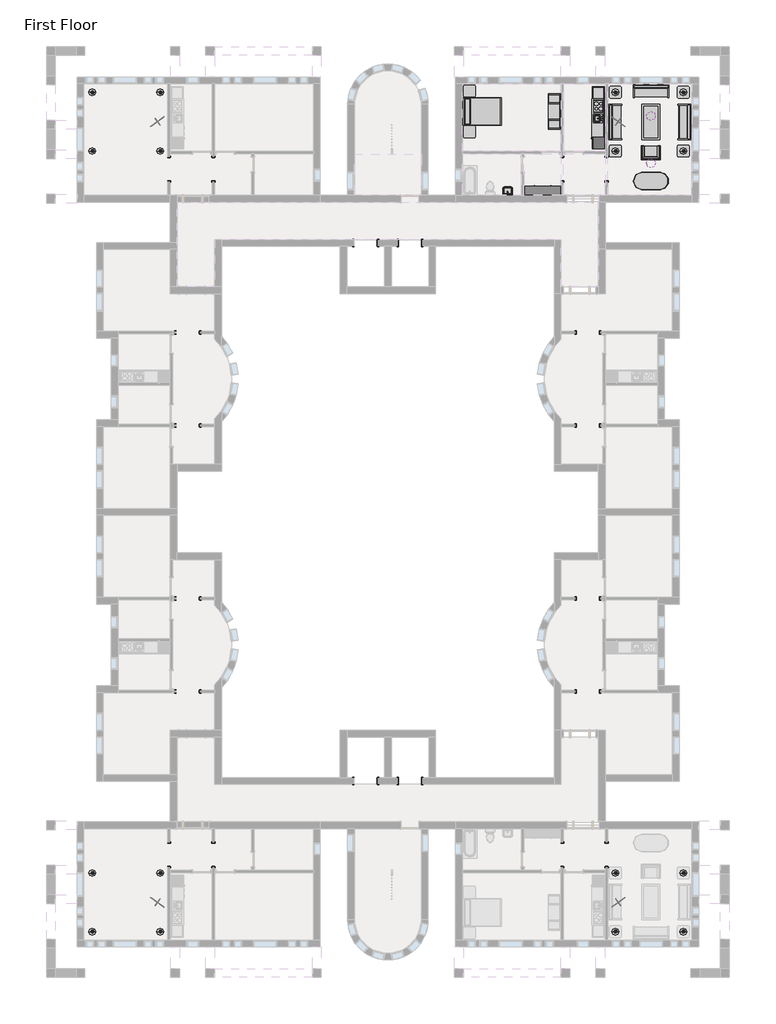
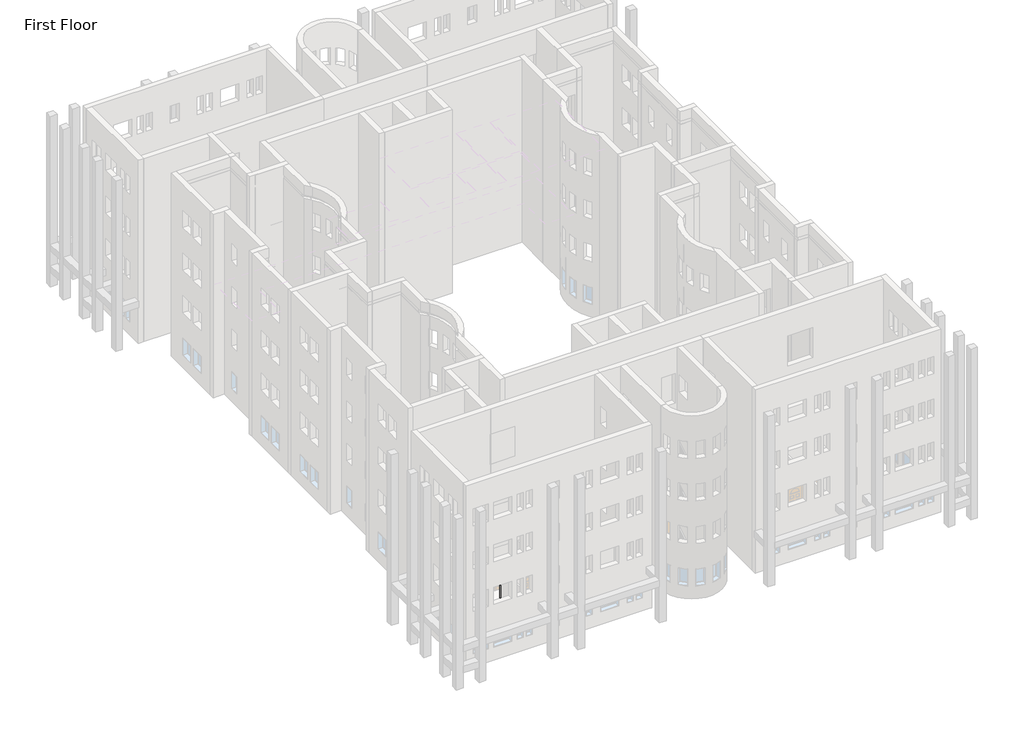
# One storey, part 23 of 23: 25 proxies, 18 light fixtures, 15 furniture elements, 1 flow terminal.
"""IFC4 building model written with IfcOpenShell, lengths in millimetres."""

from ifc_helpers import new_model, si_unit, origin, place, context, project, spatial, transform, mapped, element, save
from components import proxy_64a468c4, proxy_f44482cc, proxy_c3589814, proxy_d58c73d0, proxy_1659ed5c, rpc_female_69e001fa, rpc_female_db180e41, flow_terminal_0aeb31e3, furniture_096e7f55, chair_corbu_chair_corbu_2764bdef, furniture_7c473f12, furniture_ddc78764, furniture_4ef38d96, furniture_cd93a443, furniture_2c34a4f9, furniture_3a588284, furniture_1befe2a2, pendant_light_disk_100w_120v_c68bffb6, table_lamp_standard_60w_120v_6e8cd8b1, table_lamp_standard_60w_120v_b33ea945

model = new_model("IFC4")

# Units and contexts
model_context = context("Model", 3, world=origin())
ifc_project = project(units=[si_unit("LENGTHUNIT", "METRE", prefix="MILLI")], contexts=[model_context])

# Site, building, storey
site = spatial("IfcSite", under=ifc_project)
building = spatial("IfcBuilding", under=site)
storey = spatial("IfcBuildingStorey", under=building, Name="First Floor", Elevation=0.0)

# Proxies
placement = place(None, origin())
proxy_shape = proxy_64a468c4(model_context)
element("IfcBuildingElementProxy", 1, Name="Kitchenette - Medium : 8'6\"", ObjectType="Kitchenette - Medium : 8'6\"", at=placement, inside=storey, context=model_context, shape_type="MappedRepresentation", body=[
    mapped(proxy_shape, transform((-3887.7589563, 8837.7956433, 0.0), x_axis=(0.0, -1.0, 0.0), y_axis=(1.0, 0.0, 0.0), z_axis=(0.0, 0.0, 1.0))),
])
proxy_2_shape = proxy_f44482cc(model_context)
element("IfcBuildingElementProxy", 2, Name="Opening-Cased : 48\" x 84\"", ObjectType="Opening-Cased : 48\" x 84\"", at=placement, inside=storey, context=model_context, shape_type="MappedRepresentation", body=[
    mapped(proxy_2_shape, transform((-3773.4589563, 5882.4203434, 0.0), x_axis=(0.0, 1.0, 0.0), y_axis=(-1.0, 0.0, 0.0), z_axis=(0.0, 0.0, 1.0))),
])
element("IfcBuildingElementProxy", 3, Name="Opening-Cased : 48\" x 84\"", ObjectType="Opening-Cased : 48\" x 84\"", at=placement, inside=storey, context=model_context, shape_type="MappedRepresentation", body=[
    mapped(proxy_2_shape, transform((-6059.4589563, 5866.04303, 0.0), x_axis=(0.0, -1.0, 0.0), y_axis=(1.0, 0.0, 0.0), z_axis=(0.0, 0.0, 1.0))),
])
element("IfcBuildingElementProxy", 4, Name="Opening-Cased : 48\" x 84\"", ObjectType="Opening-Cased : 48\" x 84\"", at=placement, inside=storey, context=model_context, shape_type="MappedRepresentation", body=[
    mapped(proxy_2_shape, transform((-25377.4952996, -7344.8808133, 0.0), x_axis=(1.0, 0.0, 0.0), y_axis=(0.0, 1.0, 0.0), z_axis=(0.0, 0.0, 1.0))),
])
element("IfcBuildingElementProxy", 5, Name="Opening-Cased : 48\" x 84\"", ObjectType="Opening-Cased : 48\" x 84\"", at=placement, inside=storey, context=model_context, shape_type="MappedRepresentation", body=[
    mapped(proxy_2_shape, transform((-25393.872613, -2547.4558133, 0.0), x_axis=(-1.0, 0.0, 0.0), y_axis=(0.0, -1.0, 0.0), z_axis=(0.0, 0.0, 1.0))),
])
element("IfcBuildingElementProxy", 6, Name="Opening-Cased : 48\" x 84\"", ObjectType="Opening-Cased : 48\" x 84\"", at=placement, inside=storey, context=model_context, shape_type="MappedRepresentation", body=[
    mapped(proxy_2_shape, transform((-4746.847613, -16263.4558133, 0.0), x_axis=(-1.0, 0.0, 0.0), y_axis=(0.0, -1.0, 0.0), z_axis=(0.0, 0.0, 1.0))),
])
element("IfcBuildingElementProxy", 7, Name="Opening-Cased : 48\" x 84\"", ObjectType="Opening-Cased : 48\" x 84\"", at=placement, inside=storey, context=model_context, shape_type="MappedRepresentation", body=[
    mapped(proxy_2_shape, transform((-4730.4702996, -21060.8808133, 0.0), x_axis=(1.0, 0.0, 0.0), y_axis=(0.0, 1.0, 0.0), z_axis=(0.0, 0.0, 1.0))),
])
element("IfcBuildingElementProxy", 8, Name="Opening-Cased : 48\" x 84\"", ObjectType="Opening-Cased : 48\" x 84\"", at=placement, inside=storey, context=model_context, shape_type="MappedRepresentation", body=[
    mapped(proxy_2_shape, transform((-26350.8839563, -29490.75697, 0.0), x_axis=(0.0, -1.0, 0.0), y_axis=(1.0, 0.0, 0.0), z_axis=(0.0, 0.0, 1.0))),
])
element("IfcBuildingElementProxy", 9, Name="Opening-Cased : 48\" x 84\"", ObjectType="Opening-Cased : 48\" x 84\"", at=placement, inside=storey, context=model_context, shape_type="MappedRepresentation", body=[
    mapped(proxy_2_shape, transform((-24064.8839563, -29474.3796566, 0.0), x_axis=(0.0, 1.0, 0.0), y_axis=(-1.0, 0.0, 0.0), z_axis=(0.0, 0.0, 1.0))),
])
proxy_3_shape = proxy_c3589814(model_context)
element("IfcBuildingElementProxy", 10, Name="Opening-Cased : 48\" x 84\"", ObjectType="Opening-Cased : 48\" x 84\"", at=placement, inside=storey, context=model_context, shape_type="MappedRepresentation", body=[
    mapped(proxy_3_shape, transform((-16213.360113, 2064.2316867, 0.0), x_axis=(-1.0, 0.0, 0.0), y_axis=(0.0, -1.0, 0.0), z_axis=(0.0, 0.0, 1.0))),
])
element("IfcBuildingElementProxy", 11, Name="Opening-Cased : 48\" x 84\"", ObjectType="Opening-Cased : 48\" x 84\"", at=placement, inside=storey, context=model_context, shape_type="MappedRepresentation", body=[
    mapped(proxy_3_shape, transform((-13927.360113, 2064.2316867, 0.0), x_axis=(-1.0, 0.0, 0.0), y_axis=(0.0, -1.0, 0.0), z_axis=(0.0, 0.0, 1.0))),
])
proxy_4_shape = proxy_d58c73d0(model_context)
element("IfcBuildingElementProxy", 12, Name="Opening-Cased : 48\" x 84\"", ObjectType="Opening-Cased : 48\" x 84\"", at=placement, inside=storey, context=model_context, shape_type="MappedRepresentation", body=[
    mapped(proxy_4_shape, transform((-4746.847613, -7344.8808133, 0.0), x_axis=(-1.0, 0.0, 0.0), y_axis=(0.0, -1.0, 0.0), z_axis=(0.0, 0.0, 1.0))),
])
element("IfcBuildingElementProxy", 13, Name="Opening-Cased : 48\" x 84\"", ObjectType="Opening-Cased : 48\" x 84\"", at=placement, inside=storey, context=model_context, shape_type="MappedRepresentation", body=[
    mapped(proxy_4_shape, transform((-4730.4702996, -2547.4558133, 0.0), x_axis=(1.0, 0.0, 0.0), y_axis=(0.0, 1.0, 0.0), z_axis=(0.0, 0.0, 1.0))),
])
element("IfcBuildingElementProxy", 14, Name="Opening-Cased : 48\" x 84\"", ObjectType="Opening-Cased : 48\" x 84\"", at=placement, inside=storey, context=model_context, shape_type="MappedRepresentation", body=[
    mapped(proxy_4_shape, transform((-26350.8839563, 5882.4203434, 0.0), x_axis=(0.0, 1.0, 0.0), y_axis=(-1.0, 0.0, 0.0), z_axis=(0.0, 0.0, 1.0))),
])
element("IfcBuildingElementProxy", 15, Name="Opening-Cased : 48\" x 84\"", ObjectType="Opening-Cased : 48\" x 84\"", at=placement, inside=storey, context=model_context, shape_type="MappedRepresentation", body=[
    mapped(proxy_4_shape, transform((-24064.8839563, 5866.04303, 0.0), x_axis=(0.0, -1.0, 0.0), y_axis=(1.0, 0.0, 0.0), z_axis=(0.0, 0.0, 1.0))),
])
element("IfcBuildingElementProxy", 16, Name="Opening-Cased : 48\" x 84\"", ObjectType="Opening-Cased : 48\" x 84\"", at=placement, inside=storey, context=model_context, shape_type="MappedRepresentation", body=[
    mapped(proxy_4_shape, transform((-3773.4589563, -29490.75697, 0.0), x_axis=(0.0, -1.0, 0.0), y_axis=(1.0, 0.0, 0.0), z_axis=(0.0, 0.0, 1.0))),
])
element("IfcBuildingElementProxy", 17, Name="Opening-Cased : 48\" x 84\"", ObjectType="Opening-Cased : 48\" x 84\"", at=placement, inside=storey, context=model_context, shape_type="MappedRepresentation", body=[
    mapped(proxy_4_shape, transform((-6059.4589563, -29474.3796566, 0.0), x_axis=(0.0, 1.0, 0.0), y_axis=(-1.0, 0.0, 0.0), z_axis=(0.0, 0.0, 1.0))),
])
element("IfcBuildingElementProxy", 18, Name="Opening-Cased : 48\" x 84\"", ObjectType="Opening-Cased : 48\" x 84\"", at=placement, inside=storey, context=model_context, shape_type="MappedRepresentation", body=[
    mapped(proxy_4_shape, transform((-25377.4952996, -16263.4558133, 0.0), x_axis=(1.0, 0.0, 0.0), y_axis=(0.0, 1.0, 0.0), z_axis=(0.0, 0.0, 1.0))),
])
element("IfcBuildingElementProxy", 19, Name="Opening-Cased : 48\" x 84\"", ObjectType="Opening-Cased : 48\" x 84\"", at=placement, inside=storey, context=model_context, shape_type="MappedRepresentation", body=[
    mapped(proxy_4_shape, transform((-25393.872613, -21060.8808133, 0.0), x_axis=(-1.0, 0.0, 0.0), y_axis=(0.0, -1.0, 0.0), z_axis=(0.0, 0.0, 1.0))),
])
proxy_5_shape = proxy_1659ed5c(model_context)
element("IfcBuildingElementProxy", 20, Name="Opening-Cased : 48\" x 84\"", ObjectType="Opening-Cased : 48\" x 84\"", at=placement, inside=storey, context=model_context, shape_type="MappedRepresentation", body=[
    mapped(proxy_5_shape, transform((-16213.360113, -25672.5683133, 0.0), x_axis=(-1.0, 0.0, 0.0), y_axis=(0.0, -1.0, 0.0), z_axis=(0.0, 0.0, 1.0))),
])
element("IfcBuildingElementProxy", 21, Name="Opening-Cased : 48\" x 84\"", ObjectType="Opening-Cased : 48\" x 84\"", at=placement, inside=storey, context=model_context, shape_type="MappedRepresentation", body=[
    mapped(proxy_5_shape, transform((-13927.360113, -25672.5683133, 0.0), x_axis=(-1.0, 0.0, 0.0), y_axis=(0.0, -1.0, 0.0), z_axis=(0.0, 0.0, 1.0))),
])
rpc_female_shape = rpc_female_69e001fa(model_context)
element("IfcBuildingElementProxy", 22, Name="RPC Female : Cynthia", ObjectType="RPC Female : Cynthia", at=placement, inside=storey, context=model_context, shape_type="MappedRepresentation", body=[
    mapped(rpc_female_shape, transform((-3048.0, 8229.6, 0.0), x_axis=(0.5877852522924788, 0.8090169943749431, 0.0), y_axis=(-0.8090169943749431, 0.5877852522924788, 0.0), z_axis=(0.0, 0.0, 1.0))),
])
element("IfcBuildingElementProxy", 23, Name="RPC Female : Cynthia", ObjectType="RPC Female : Cynthia", at=placement, inside=storey, context=model_context, shape_type="MappedRepresentation", body=[
    mapped(rpc_female_shape, transform((-27076.3429126, -31837.9366266, 0.0), x_axis=(-0.5877852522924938, -0.8090169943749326, 0.0), y_axis=(0.8090169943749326, -0.5877852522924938, 0.0), z_axis=(0.0, 0.0, 1.0))),
])
rpc_female_2_shape = rpc_female_db180e41(model_context)
element("IfcBuildingElementProxy", 24, Name="RPC Female : Cynthia", ObjectType="RPC Female : Cynthia", at=placement, inside=storey, context=model_context, shape_type="MappedRepresentation", body=[
    mapped(rpc_female_2_shape, transform((-27076.3429126, 8229.6, 0.0), x_axis=(-0.5877852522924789, 0.8090169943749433, 0.0), y_axis=(-0.8090169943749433, -0.5877852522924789, 0.0), z_axis=(0.0, 0.0, 1.0))),
])
element("IfcBuildingElementProxy", 25, Name="RPC Female : Cynthia", ObjectType="RPC Female : Cynthia", at=placement, inside=storey, context=model_context, shape_type="MappedRepresentation", body=[
    mapped(rpc_female_2_shape, transform((-3048.0, -31837.9366266, 0.0), x_axis=(0.5877852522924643, -0.8090169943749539, 0.0), y_axis=(0.8090169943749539, 0.5877852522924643, 0.0), z_axis=(0.0, 0.0, 1.0))),
])

# Flow terminal
flow_terminal_shape = flow_terminal_0aeb31e3(model_context)
element("IfcFlowTerminal", 26, ObjectType="Sink Vanity-Square : 24\" x 19\"", at=placement, inside=storey, context=model_context, shape_type="MappedRepresentation", body=[
    mapped(flow_terminal_shape, transform((-8864.7572157, 4706.5895878, 0.0), x_axis=(-1.0, 0.0, 0.0), y_axis=(0.0, -1.0, 0.0), z_axis=(0.0, 0.0, 1.0))),
])

# Furniture
furniture_shape = furniture_096e7f55(model_context)
element("IfcFurniture", 27, ObjectType="Bed-Shaker : Double 56\" x 78\"", at=placement, inside=storey, context=model_context, shape_type="MappedRepresentation", body=[
    mapped(furniture_shape, transform((-11183.1982802, 8871.8755561, 0.0), x_axis=(0.0, 1.0, 0.0), y_axis=(-1.0, 0.0, 0.0), z_axis=(0.0, 0.0, 1.0))),
])
chair_corbu_chair_corbu_shape = chair_corbu_chair_corbu_2764bdef(model_context)
element("IfcFurniture", 28, ObjectType="Chair-Corbu : Chair-Corbu", at=placement, inside=storey, context=model_context, shape_type="MappedRepresentation", body=[
    mapped(chair_corbu_chair_corbu_shape, transform((-914.0851858, 7193.4962359, 0.0), x_axis=(-1.0, 0.0, 0.0), y_axis=(0.0, -1.0, 0.0), z_axis=(0.0, 0.0, 1.0))),
])
furniture_2_shape = furniture_7c473f12(model_context)
element("IfcFurniture", 29, ObjectType="Dresser : 72\" x 60\" x 18\"", at=placement, inside=storey, context=model_context, shape_type="MappedRepresentation", body=[
    mapped(furniture_2_shape, transform((-7344.6522161, 4404.5812326, 0.0), x_axis=(-1.0, 0.0, 0.0), y_axis=(0.0, -1.0, 0.0), z_axis=(0.0, 0.0, 1.0))),
])
furniture_3_shape = furniture_ddc78764(model_context)
element("IfcFurniture", 30, ObjectType="Entertainment Center : 72\" x 72\" x 24\"", at=placement, inside=storey, context=model_context, shape_type="MappedRepresentation", body=[
    mapped(furniture_3_shape, transform((-6059.4589563, 8852.8255561, 0.0), x_axis=(0.0, -1.0, 0.0), y_axis=(1.0, 0.0, 0.0), z_axis=(0.0, 0.0, 1.0))),
])
furniture_4_shape = furniture_4ef38d96(model_context)
element("IfcFurniture", 31, ObjectType="Sofa : 72\"", at=placement, inside=storey, context=model_context, shape_type="MappedRepresentation", body=[
    mapped(furniture_4_shape, transform((-1557.8294481, 9741.2775883, 0.0), x_axis=(1.0, 0.0, 0.0), y_axis=(0.0, 1.0, 0.0), z_axis=(0.0, 0.0, 1.0))),
])
element("IfcFurniture", 32, ObjectType="Sofa : 72\"", at=placement, inside=storey, context=model_context, shape_type="MappedRepresentation", body=[
    mapped(furniture_4_shape, transform((93.5869453, 8383.0021785, 0.0), x_axis=(0.0, -1.0, 0.0), y_axis=(1.0, 0.0, 0.0), z_axis=(0.0, 0.0, 1.0))),
])
element("IfcFurniture", 33, ObjectType="Sofa : 72\"", at=placement, inside=storey, context=model_context, shape_type="MappedRepresentation", body=[
    mapped(furniture_4_shape, transform((-3170.104858, 8242.2611949, 0.0), x_axis=(0.0, 1.0, 0.0), y_axis=(-1.0, 0.0, 0.0), z_axis=(0.0, 0.0, 1.0))),
])
furniture_5_shape = furniture_cd93a443(model_context)
element("IfcFurniture", 34, ObjectType="Table-Coffee : 36\" x 72\" x 18\"", at=placement, inside=storey, context=model_context, shape_type="MappedRepresentation", body=[
    mapped(furniture_5_shape, transform((-1582.6700341, 8330.8974534, 0.0), x_axis=(0.0, -1.0, 0.0), y_axis=(1.0, 0.0, 0.0), z_axis=(0.0, 0.0, 1.0))),
])
furniture_6_shape = furniture_2c34a4f9(model_context)
element("IfcFurniture", 35, ObjectType="Table-Dining Oval : 36\" x 72\"", at=placement, inside=storey, context=model_context, shape_type="MappedRepresentation", body=[
    mapped(furniture_6_shape, transform((-1085.6392842, 5622.7300473, 0.0), x_axis=(1.0, 0.0, 0.0), y_axis=(0.0, 1.0, 0.0), z_axis=(0.0, 0.0, 1.0))),
])
furniture_7_shape = furniture_3a588284(model_context)
element("IfcFurniture", 36, ObjectType="Table-End : 24\" x 24\"", at=placement, inside=storey, context=model_context, shape_type="MappedRepresentation", body=[
    mapped(furniture_7_shape, transform((-119.5925866, 9684.2316867, 0.0), x_axis=(1.0, 0.0, 0.0), y_axis=(0.0, 1.0, 0.0), z_axis=(0.0, 0.0, 1.0))),
])
element("IfcFurniture", 37, ObjectType="Table-End : 24\" x 24\"", at=placement, inside=storey, context=model_context, shape_type="MappedRepresentation", body=[
    mapped(furniture_7_shape, transform((-3624.7925866, 9684.2316867, 0.0), x_axis=(1.0, 0.0, 0.0), y_axis=(0.0, 1.0, 0.0), z_axis=(0.0, 0.0, 1.0))),
])
element("IfcFurniture", 38, ObjectType="Table-End : 24\" x 24\"", at=placement, inside=storey, context=model_context, shape_type="MappedRepresentation", body=[
    mapped(furniture_7_shape, transform((-3624.7925866, 6660.0441867, 0.0), x_axis=(1.0, 0.0, 0.0), y_axis=(0.0, 1.0, 0.0), z_axis=(0.0, 0.0, 1.0))),
])
element("IfcFurniture", 39, ObjectType="Table-End : 24\" x 24\"", at=placement, inside=storey, context=model_context, shape_type="MappedRepresentation", body=[
    mapped(furniture_7_shape, transform((-119.5925866, 6660.0441867, 0.0), x_axis=(1.0, 0.0, 0.0), y_axis=(0.0, 1.0, 0.0), z_axis=(0.0, 0.0, 1.0))),
])
element("IfcFurniture", 40, ObjectType="Table-End : 24\" x 24\"", at=placement, inside=storey, context=model_context, shape_type="MappedRepresentation", body=[
    mapped(furniture_7_shape, transform((-11164.2346356, 9756.0737357, 0.0), x_axis=(1.0, 0.0, 0.0), y_axis=(0.0, 1.0, 0.0), z_axis=(0.0, 0.0, 1.0))),
])
furniture_8_shape = furniture_1befe2a2(model_context)
element("IfcFurniture", 41, ObjectType="Table-End : 24\" x 24\"", at=placement, inside=storey, context=model_context, shape_type="MappedRepresentation", body=[
    mapped(furniture_8_shape, transform((-11164.2346356, 7949.5773764, 0.0), x_axis=(1.0, 0.0, 0.0), y_axis=(0.0, 1.0, 0.0), z_axis=(0.0, 0.0, 1.0))),
])

# Light fixtures
pendant_light_disk_100w_120v_shape = pendant_light_disk_100w_120v_c68bffb6(model_context)
element("IfcLightFixture", 42, ObjectType="Pendant Light - Disk : 100W - 120V", at=placement, inside=storey, context=model_context, shape_type="MappedRepresentation", body=[
    mapped(pendant_light_disk_100w_120v_shape, transform((-1487.4589563, 8617.4316867, 152.3999938), x_axis=(1.0, 0.0, 0.0), y_axis=(0.0, 1.0, 0.0), z_axis=(0.0, 0.0, 1.0))),
])
element("IfcLightFixture", 43, ObjectType="Pendant Light - Disk : 100W - 120V", at=placement, inside=storey, context=model_context, shape_type="MappedRepresentation", body=[
    mapped(pendant_light_disk_100w_120v_shape, transform((-1487.4589563, 6179.0316867, 152.3999938), x_axis=(1.0, 0.0, 0.0), y_axis=(0.0, 1.0, 0.0), z_axis=(0.0, 0.0, 1.0))),
])
table_lamp_standard_60w_120v_shape = table_lamp_standard_60w_120v_6e8cd8b1(model_context)
element("IfcLightFixture", 44, ObjectType="Table Lamp - Standard : 60W - 120V", at=placement, inside=storey, context=model_context, shape_type="MappedRepresentation", body=[
    mapped(table_lamp_standard_60w_120v_shape, transform((188.9410437, 6812.4441867, 381.0), x_axis=(1.0, 0.0, 0.0), y_axis=(0.0, 1.0, 0.0), z_axis=(0.0, 0.0, 1.0))),
])
element("IfcLightFixture", 45, ObjectType="Table Lamp - Standard : 60W - 120V", at=placement, inside=storey, context=model_context, shape_type="MappedRepresentation", body=[
    mapped(table_lamp_standard_60w_120v_shape, transform((188.9410437, 9836.6316867, 381.0), x_axis=(1.0, 0.0, 0.0), y_axis=(0.0, 1.0, 0.0), z_axis=(0.0, 0.0, 1.0))),
])
element("IfcLightFixture", 46, ObjectType="Table Lamp - Standard : 60W - 120V", at=placement, inside=storey, context=model_context, shape_type="MappedRepresentation", body=[
    mapped(table_lamp_standard_60w_120v_shape, transform((-3316.2589563, 9836.6316867, 381.0), x_axis=(1.0, 0.0, 0.0), y_axis=(0.0, 1.0, 0.0), z_axis=(0.0, 0.0, 1.0))),
])
element("IfcLightFixture", 47, ObjectType="Table Lamp - Standard : 60W - 120V", at=placement, inside=storey, context=model_context, shape_type="MappedRepresentation", body=[
    mapped(table_lamp_standard_60w_120v_shape, transform((-3316.2589563, 6812.4441867, 381.0), x_axis=(1.0, 0.0, 0.0), y_axis=(0.0, 1.0, 0.0), z_axis=(0.0, 0.0, 1.0))),
])
element("IfcLightFixture", 48, ObjectType="Table Lamp - Standard : 60W - 120V", at=placement, inside=storey, context=model_context, shape_type="MappedRepresentation", body=[
    mapped(table_lamp_standard_60w_120v_shape, transform((-30313.2839563, -30420.7808133, 381.0), x_axis=(-1.0, 0.0, 0.0), y_axis=(0.0, -1.0, 0.0), z_axis=(0.0, 0.0, 1.0))),
])
element("IfcLightFixture", 49, ObjectType="Table Lamp - Standard : 60W - 120V", at=placement, inside=storey, context=model_context, shape_type="MappedRepresentation", body=[
    mapped(table_lamp_standard_60w_120v_shape, transform((-30313.2839563, -33444.9683133, 381.0), x_axis=(-1.0, 0.0, 0.0), y_axis=(0.0, -1.0, 0.0), z_axis=(0.0, 0.0, 1.0))),
])
element("IfcLightFixture", 50, ObjectType="Table Lamp - Standard : 60W - 120V", at=placement, inside=storey, context=model_context, shape_type="MappedRepresentation", body=[
    mapped(table_lamp_standard_60w_120v_shape, transform((-26808.0839563, -33444.9683133, 381.0), x_axis=(-1.0, 0.0, 0.0), y_axis=(0.0, -1.0, 0.0), z_axis=(0.0, 0.0, 1.0))),
])
element("IfcLightFixture", 51, ObjectType="Table Lamp - Standard : 60W - 120V", at=placement, inside=storey, context=model_context, shape_type="MappedRepresentation", body=[
    mapped(table_lamp_standard_60w_120v_shape, transform((-26808.0839563, -30420.7808133, 381.0), x_axis=(-1.0, 0.0, 0.0), y_axis=(0.0, -1.0, 0.0), z_axis=(0.0, 0.0, 1.0))),
])
table_lamp_standard_60w_120v_2_shape = table_lamp_standard_60w_120v_b33ea945(model_context)
element("IfcLightFixture", 52, ObjectType="Table Lamp - Standard : 60W - 120V", at=placement, inside=storey, context=model_context, shape_type="MappedRepresentation", body=[
    mapped(table_lamp_standard_60w_120v_2_shape, transform((-30313.2839563, 6812.4441867, 381.0), x_axis=(-1.0, 0.0, 0.0), y_axis=(0.0, -1.0, 0.0), z_axis=(0.0, 0.0, 1.0))),
])
element("IfcLightFixture", 53, ObjectType="Table Lamp - Standard : 60W - 120V", at=placement, inside=storey, context=model_context, shape_type="MappedRepresentation", body=[
    mapped(table_lamp_standard_60w_120v_2_shape, transform((-30313.2839563, 9836.6316867, 381.0), x_axis=(-1.0, 0.0, 0.0), y_axis=(0.0, -1.0, 0.0), z_axis=(0.0, 0.0, 1.0))),
])
element("IfcLightFixture", 54, ObjectType="Table Lamp - Standard : 60W - 120V", at=placement, inside=storey, context=model_context, shape_type="MappedRepresentation", body=[
    mapped(table_lamp_standard_60w_120v_2_shape, transform((-26808.0839563, 9836.6316867, 381.0), x_axis=(-1.0, 0.0, 0.0), y_axis=(0.0, -1.0, 0.0), z_axis=(0.0, 0.0, 1.0))),
])
element("IfcLightFixture", 55, ObjectType="Table Lamp - Standard : 60W - 120V", at=placement, inside=storey, context=model_context, shape_type="MappedRepresentation", body=[
    mapped(table_lamp_standard_60w_120v_2_shape, transform((-26808.0839563, 6812.4441867, 381.0), x_axis=(-1.0, 0.0, 0.0), y_axis=(0.0, -1.0, 0.0), z_axis=(0.0, 0.0, 1.0))),
])
element("IfcLightFixture", 56, ObjectType="Table Lamp - Standard : 60W - 120V", at=placement, inside=storey, context=model_context, shape_type="MappedRepresentation", body=[
    mapped(table_lamp_standard_60w_120v_2_shape, transform((188.9410437, -30420.7808133, 381.0), x_axis=(1.0, 0.0, 0.0), y_axis=(0.0, 1.0, 0.0), z_axis=(0.0, 0.0, 1.0))),
])
element("IfcLightFixture", 57, ObjectType="Table Lamp - Standard : 60W - 120V", at=placement, inside=storey, context=model_context, shape_type="MappedRepresentation", body=[
    mapped(table_lamp_standard_60w_120v_2_shape, transform((188.9410437, -33444.9683133, 381.0), x_axis=(1.0, 0.0, 0.0), y_axis=(0.0, 1.0, 0.0), z_axis=(0.0, 0.0, 1.0))),
])
element("IfcLightFixture", 58, ObjectType="Table Lamp - Standard : 60W - 120V", at=placement, inside=storey, context=model_context, shape_type="MappedRepresentation", body=[
    mapped(table_lamp_standard_60w_120v_2_shape, transform((-3316.2589563, -33444.9683133, 381.0), x_axis=(1.0, 0.0, 0.0), y_axis=(0.0, 1.0, 0.0), z_axis=(0.0, 0.0, 1.0))),
])
element("IfcLightFixture", 59, ObjectType="Table Lamp - Standard : 60W - 120V", at=placement, inside=storey, context=model_context, shape_type="MappedRepresentation", body=[
    mapped(table_lamp_standard_60w_120v_2_shape, transform((-3316.2589563, -30420.7808133, 381.0), x_axis=(1.0, 0.0, 0.0), y_axis=(0.0, 1.0, 0.0), z_axis=(0.0, 0.0, 1.0))),
])

save(model, "model.ifc")
